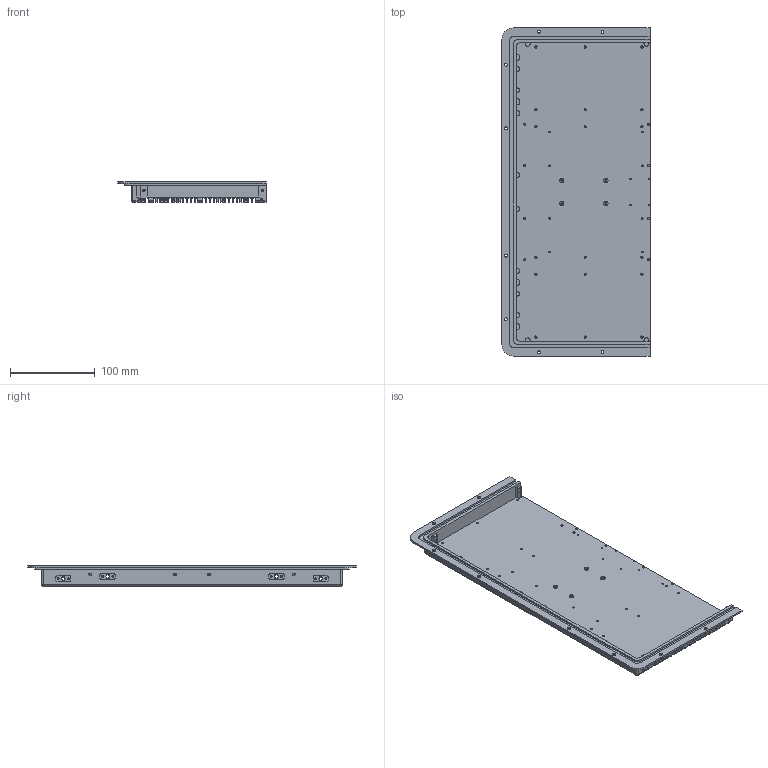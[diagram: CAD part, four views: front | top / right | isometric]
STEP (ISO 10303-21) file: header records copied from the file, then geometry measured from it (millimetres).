
FILE_DESCRIPTION (( 'STEP AP214' ), '1' );
FILE_NAME ('反制盾-盒体1.STEP', '2026-09-29T10:29:48', ( '微软用户' ), ( '微软中国' ), 'SwSTEP 2.0', 'SolidWorks 2016', '' );
FILE_SCHEMA (( 'AUTOMOTIVE_DESIGN' ));
Length unit declared in the file: millimetre
Products named in the file (1): 毀秶嗎-碟极1
Bounding box: 174.5 x 387 x 23.8 mm (x, y, z)
Volume: 233611.5 mm3; surface area: 271919.1 mm2
Topology: 1 solids, 1 shells, 1167 faces, 3023 edges, 1960 vertices
Faces by surface type: cylinder 531, plane 506, cone 124, bspline 4, sphere 2
Entity records: 36971 total; most frequent: DIRECTION 6519, CARTESIAN_POINT 6351, ORIENTED_EDGE 6042, EDGE_CURVE 3021, AXIS2_PLACEMENT_3D 2344, VERTEX_POINT 1960, LINE 1831, VECTOR 1831
